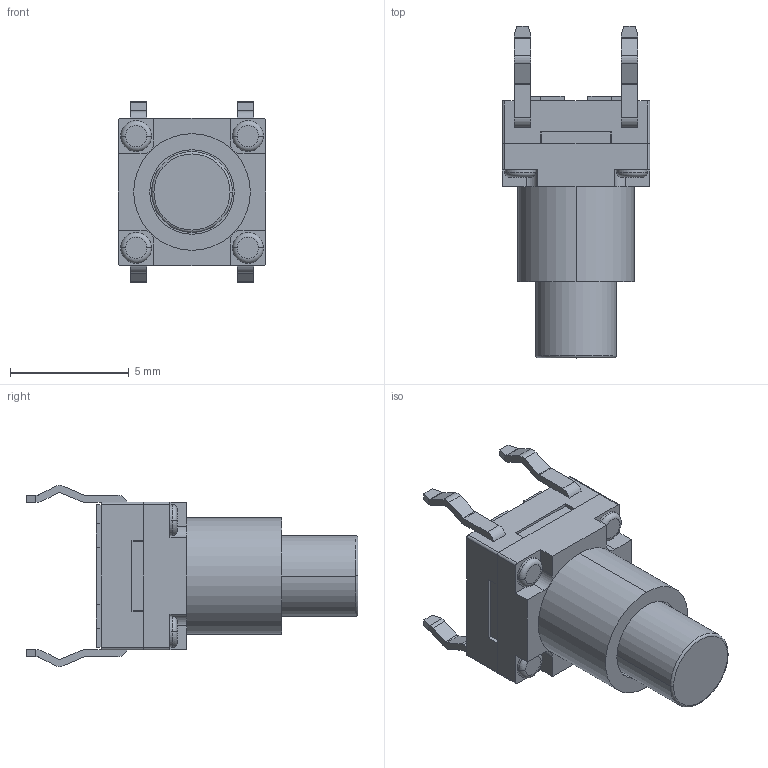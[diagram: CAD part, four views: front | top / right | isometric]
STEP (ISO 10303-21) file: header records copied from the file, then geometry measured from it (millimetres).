
FILE_DESCRIPTION((''),'2;1');
FILE_NAME('JQB6060F-B0501-01EGK-101_ASM','2026-05-26T10:52:54',('Admin'),(''),'CREO PARAMETRIC BY PTC INC, 2019224','CREO PARAMETRIC BY PTC INC, 2019224','');
FILE_SCHEMA(('AUTOMOTIVE_DESIGN { 1 0 10303 214 1 1 1 1 }'));
Length unit declared in the file: millimetre
Products named in the file (3): JQB6060F-B0501-01EGK-101_04; JQB6060F-B0501-01EGK-101_05; JQB6060F-B0501-01EGK-101_ASM
Assembly tree (2 placements, depth 2):
  JQB6060F-B0501-01EGK-101_ASM
    JQB6060F-B0501-01EGK-101_04
    JQB6060F-B0501-01EGK-101_05
Bounding box: 6.2 x 13.95 x 7.62 mm (x, y, z)
Volume: 240.1 mm3; surface area: 521.3 mm2
Topology: 2 solids, 2 shells, 228 faces, 620 edges, 422 vertices
Faces by surface type: plane 148, cylinder 70, torus 10
Entity records: 10227 total; most frequent: CARTESIAN_POINT 1268, DIRECTION 1260, ORIENTED_EDGE 1220, PRESENTATION_STYLE_ASSIGNMENT 705, STYLED_ITEM 625, CURVE_STYLE 623, EDGE_CURVE 610, VECTOR 458
